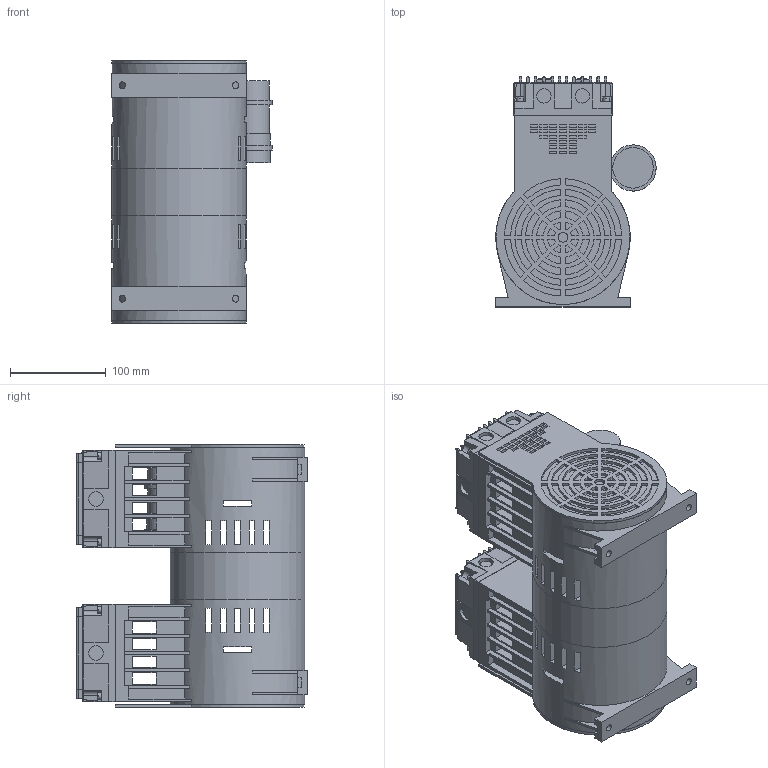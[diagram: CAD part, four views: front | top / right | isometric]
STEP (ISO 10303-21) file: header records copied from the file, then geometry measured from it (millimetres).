
FILE_DESCRIPTION(('STEP AP203'),'1');
FILE_NAME('CJP-200V.stp','2018-12-18T01:45:51',(' '),(' '),'Spatial InterOp 3D',' ',' ');
FILE_SCHEMA(('CONFIG_CONTROL_DESIGN'));
Length unit declared in the file: millimetre
Products named in the file (9): ____1; 파트1; 파트2; 파트3; 파트4; 파트5; 파트6; 파트7; 파트8
Assembly tree (8 placements, depth 2):
  ____1
    파트1
    파트2
    파트3
    파트4
    파트5
    파트6
    파트7
    파트8
Bounding box: 167.1 x 240 x 273.5 mm (x, y, z)
Volume: 5806059.1 mm3; surface area: 640959.9 mm2
Topology: 8 solids, 8 shells, 1528 faces, 4260 edges, 2783 vertices
Faces by surface type: plane 1109, cylinder 403, cone 8, torus 8
Full cylindrical faces by diameter (mm): 7 x12, 10.3 x2, 15 x6, 42.2 x2, 44.2 x2, 48.2 x2, 140 x3
Entity records: 49386 total; most frequent: CARTESIAN_POINT 8513, ORIENTED_EDGE 8412, DIRECTION 8174, EDGE_CURVE 4206, LINE 3312, VECTOR 3312, VERTEX_POINT 2770, AXIS2_PLACEMENT_3D 2431
